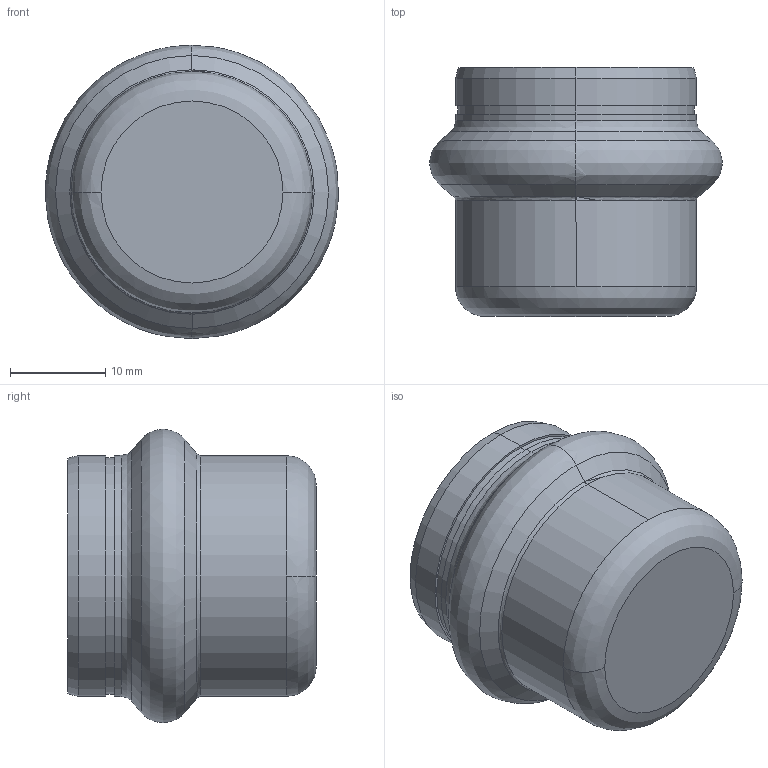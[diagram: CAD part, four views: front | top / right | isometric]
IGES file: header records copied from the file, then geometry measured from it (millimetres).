
Start section: Elysium IGES Interface
Global section: file name: C:\3d modellen sudo\C-Pr VP\SP8301VW\8301VW22.igs; native system: CoCreate Modeling 17.00A  17-Jun-2010; preprocessor: CoCreate IGES_3D V2.2; author: Unknown; organization: Unknown; date: 20130305.132806; units: millimetre
Bounding box: 30.76 x 26.1 x 30.78 mm (x, y, z)
Volume: 4721.8 mm3; surface area: 5139.6 mm2
Topology: 1 solids, 1 shells, 40 faces, 86 edges, 50 vertices
Faces by surface type: bspline 40
